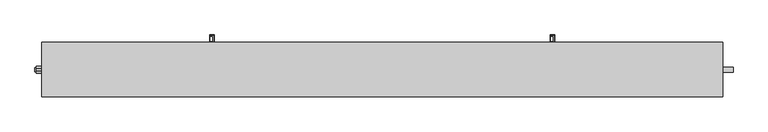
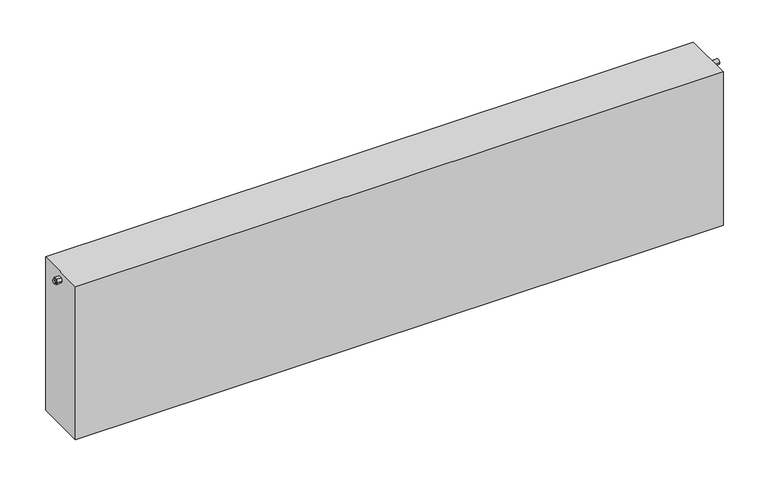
"""IFC4 building model written with IfcOpenShell, lengths in millimetres: proxy geometry, ADSK_Радиатор_СтальнойПанельный : 33_500_2000."""

from ifc_helpers import new_model, si_unit, point, frame, frame_2d, origin, place, context, project, spatial, polyline, circle_curve, trimmed, segment, composite_curve, outline, extrude, source, transform, mapped, element, save
from ifc_brep_helpers import plane_surface, cylinder_surface, advanced_brep


def mechanical_equipment_9d38e92a(model_context):
    return source(origin(), model_context, "Body", "SolidModel", [
        extrude(outline(polyline([(704.542649, -29.589015), (704.542649, -49.589015), (695.411704, -49.589015), (695.411704, -47.609118), (702.490403, -47.609118), (702.490403, -38.8242061), (702.490403, -31.5689121), (695.411704, -31.5689121), (695.411704, -29.589015), (704.542649, -29.589015)])), frame((0.0, 0.0, 175.0), z_axis=(0.0, 0.0, 1.0), x_axis=(1.0, 0.0, 0.0)), (0.0, 0.0, 1.0), 350.0),
        extrude(outline(polyline([(706.3350832, -27.7938187), (706.3350832, -73.0037765), (693.3943158, -73.0037765), (693.3943158, -27.7938187), (706.3350832, -27.7938187)]), holes=[polyline([(704.9194272, -29.2790933), (695.0216716, -29.2790933), (695.0216716, -50.0), (704.9194272, -50.0), (704.9194272, -29.2790933)])]), frame((0.0, 0.0, 490.0061306), z_axis=(0.0, 0.0, 1.0), x_axis=(1.0, 0.0, 0.0)), (0.0, 0.0, 1.0), 9.9938694),
        extrude(outline(polyline([(706.3350832, -27.7938187), (706.3350832, -73.0037765), (693.3943158, -73.0037765), (693.3943158, -27.7938187), (706.3350832, -27.7938187)]), holes=[polyline([(704.9194272, -29.2790933), (695.0216716, -29.2790933), (695.0216716, -50.0), (704.9194272, -50.0), (704.9194272, -29.2790933)])]), frame((0.0, 0.0, 200.0), z_axis=(0.0, 0.0, 1.0), x_axis=(1.0, 0.0, 0.0)), (0.0, 0.0, 1.0), 9.9938694),
        extrude(outline(polyline([(-295.457351, -29.589015), (-295.457351, -49.589015), (-304.588296, -49.589015), (-304.588296, -47.609118), (-297.509597, -47.609118), (-297.509597, -38.8242061), (-297.509597, -31.5689121), (-304.588296, -31.5689121), (-304.588296, -29.589015), (-295.457351, -29.589015)])), frame((0.0, 0.0, 175.0), z_axis=(0.0, 0.0, 1.0), x_axis=(1.0, 0.0, 0.0)), (0.0, 0.0, 1.0), 350.0),
        extrude(outline(polyline([(-293.6649168, -27.7938187), (-293.6649168, -73.0037765), (-306.6056842, -73.0037765), (-306.6056842, -27.7938187), (-293.6649168, -27.7938187)]), holes=[polyline([(-295.0805728, -29.2790933), (-304.9783284, -29.2790933), (-304.9783284, -50.0), (-295.0805728, -50.0), (-295.0805728, -29.2790933)])]), frame((0.0, 0.0, 490.0061306), z_axis=(0.0, 0.0, 1.0), x_axis=(1.0, 0.0, 0.0)), (0.0, 0.0, 1.0), 9.9938694),
        extrude(outline(polyline([(-293.6649168, -27.7938187), (-293.6649168, -73.0037765), (-306.6056842, -73.0037765), (-306.6056842, -27.7938187), (-293.6649168, -27.7938187)]), holes=[polyline([(-295.0805728, -29.2790933), (-304.9783284, -29.2790933), (-304.9783284, -50.0), (-295.0805728, -50.0), (-295.0805728, -29.2790933)])]), frame((0.0, 0.0, 200.0), z_axis=(0.0, 0.0, 1.0), x_axis=(1.0, 0.0, 0.0)), (0.0, 0.0, 1.0), 9.9938694),
        extrude(outline(composite_curve([segment(trimmed(circle_curve(frame_2d((-130.0, 125.0)), 7.5), [point((-137.5, 125.0))], [point((-122.5, 125.0))], False, "CARTESIAN"), True, "CONTINUOUS"), segment(trimmed(circle_curve(frame_2d((-130.0, 125.0)), 7.5), [point((-122.5, 125.0))], [point((-137.5, 125.0))], False, "CARTESIAN"), True, "CONTINUOUS")], self_intersect=False)), frame((1200.0, 0.0, 0.0), z_axis=(1.0, 0.0, 0.0), x_axis=(0.0, 1.0, 0.0)), (0.0, 0.0, 1.0), 30.0),
        extrude(outline(composite_curve([segment(trimmed(circle_curve(frame_2d((-130.0, 575.0)), 7.5), [point((-137.5, 575.0))], [point((-122.5, 575.0))], False, "CARTESIAN"), True, "CONTINUOUS"), segment(trimmed(circle_curve(frame_2d((-130.0, 575.0)), 7.5), [point((-122.5, 575.0))], [point((-137.5, 575.0))], False, "CARTESIAN"), True, "CONTINUOUS")], self_intersect=False)), frame((1200.0, 0.0, 0.0), z_axis=(1.0, 0.0, 0.0), x_axis=(0.0, 1.0, 0.0)), (0.0, 0.0, 1.0), 30.0),
        extrude(outline(polyline([(1200.0, -50.0), (1200.0, -210.0), (-800.0, -210.0), (-800.0, -50.0), (1200.0, -50.0)])), frame((0.0, 0.0, 100.0), z_axis=(0.0, 0.0, 1.0), x_axis=(1.0, 0.0, 0.0)), (0.0, 0.0, 1.0), 500.0),
        advanced_brep(
        [(-820.0, -136.0, 575.0), (-820.0, -124.0, 575.0), (-816.1885654, -124.0, 575.0), (-816.1885654, -136.0, 575.0), (-816.1885654, -135.0, 566.339746), (-816.1885654, -140.0, 575.0), (-816.1885654, -135.0, 583.660254), (-816.1885654, -125.0, 583.660254), (-816.1885654, -120.0, 575.0), (-816.1885654, -125.0, 566.339746), (-800.0, -135.0, 566.339746), (-800.0, -125.0, 566.339746), (-800.0, -120.0, 575.0), (-800.0, -125.0, 583.660254), (-800.0, -135.0, 583.660254), (-800.0, -140.0, 575.0)],
        [
            (0, 1, circle_curve(frame((-820.0, -130.0, 575.0), z_axis=(-1.0, 0.0, 0.0), x_axis=(0.0, 1.0, 0.0)), 6.0)),
            (1, 0, circle_curve(frame((-820.0, -130.0, 575.0), z_axis=(-1.0, 0.0, 0.0), x_axis=(0.0, 1.0, 0.0)), 6.0)),
            (1, 2),
            (2, 3, circle_curve(frame((-816.1885654, -130.0, 575.0), z_axis=(-1.0, 0.0, 0.0), x_axis=(0.0, 1.0, 0.0)), 6.0)),
            (3, 0),
            (3, 2, circle_curve(frame((-816.1885654, -130.0, 575.0), z_axis=(-1.0, 0.0, 0.0), x_axis=(0.0, 1.0, 0.0)), 6.0)),
            (4, 5),
            (5, 6),
            (6, 7),
            (7, 8),
            (8, 9),
            (9, 4),
            (10, 11),
            (11, 12),
            (12, 13),
            (13, 14),
            (14, 15),
            (15, 10),
            (9, 11),
            (10, 4),
            (8, 12),
            (7, 13),
            (6, 14),
            (5, 15),
        ],
        [
            plane_surface(frame((-820.0, -124.0, 575.0), z_axis=(-1.0, 0.0, 0.0), x_axis=(0.0, 0.0, -1.0))),
            cylinder_surface(frame((-820.0, -130.0, 575.0), z_axis=(1.0, 0.0, 0.0), x_axis=(0.0, 1.0, 0.0)), 6.0),
            plane_surface(frame((-816.1885654, -135.0, 566.339746), z_axis=(-1.0, 0.0, 0.0), x_axis=(0.0, -1.0, 0.0))),
            plane_surface(frame((-800.0, -135.0, 566.339746), z_axis=(1.0, 0.0, 0.0), x_axis=(0.0, 1.0, 0.0))),
            plane_surface(frame((-800.0, -135.0, 566.339746), z_axis=(0.0, 0.0, -1.0), x_axis=(-1.0, 0.0, 0.0))),
            plane_surface(frame((-800.0, -125.0, 566.339746), z_axis=(0.0, 0.8660254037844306, -0.500000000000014), x_axis=(-1.0, 0.0, 0.0))),
            plane_surface(frame((-800.0, -120.0, 575.0), z_axis=(0.0, 0.8660254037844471, 0.49999999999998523), x_axis=(-1.0, 0.0, 0.0))),
            plane_surface(frame((-800.0, -125.0, 583.660254), z_axis=(0.0, 0.0, 1.0), x_axis=(-1.0, 0.0, 0.0))),
            plane_surface(frame((-800.0, -135.0, 583.660254), z_axis=(0.0, -0.8660254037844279, 0.5000000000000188), x_axis=(-1.0, 0.0, 0.0))),
            plane_surface(frame((-800.0, -140.0, 575.0), z_axis=(0.0, -0.8660254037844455, -0.49999999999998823), x_axis=(-1.0, 0.0, 0.0))),
        ],
        [
            (0, [[1, 2]]),
            (1, [[-2, 3, 4, 5]]),
            (1, [[-1, -5, 6, -3]]),
            (2, [[7, 8, 9, 10, 11, 12], [-4, -6]]),
            (3, [[13, 14, 15, 16, 17, 18]]),
            (4, [[-12, 19, -13, 20]]),
            (5, [[-11, 21, -14, -19]]),
            (6, [[-10, 22, -15, -21]]),
            (7, [[-9, 23, -16, -22]]),
            (8, [[-8, 24, -17, -23]]),
            (9, [[-7, -20, -18, -24]]),
        ],
    ),
    ])


if __name__ == "__main__":
    model = new_model("IFC4")
    model_context = context("Model", 3, world=origin())
    ifc_project = project(units=[si_unit("LENGTHUNIT", "METRE", prefix="MILLI")], contexts=[model_context])
    site = spatial("IfcSite", under=ifc_project)
    building = spatial("IfcBuilding", under=site)
    placement = place(None, origin())
    mechanical_equipment_shape = mechanical_equipment_9d38e92a(model_context)
    element("IfcBuildingElementProxy", 1, Name="ADSK_Радиатор_СтальнойПанельный : 33_500_2000", ObjectType="ADSK_Радиатор_СтальнойПанельный : 33_500_2000", at=placement, inside=building, context=model_context, shape_type="MappedRepresentation", body=[
        mapped(mechanical_equipment_shape, transform((0.0, 0.0, 0.0), x_axis=(1.0, 0.0, 0.0), y_axis=(0.0, 1.0, 0.0), z_axis=(0.0, 0.0, 1.0))),
    ])
    save(model, "model.ifc")
